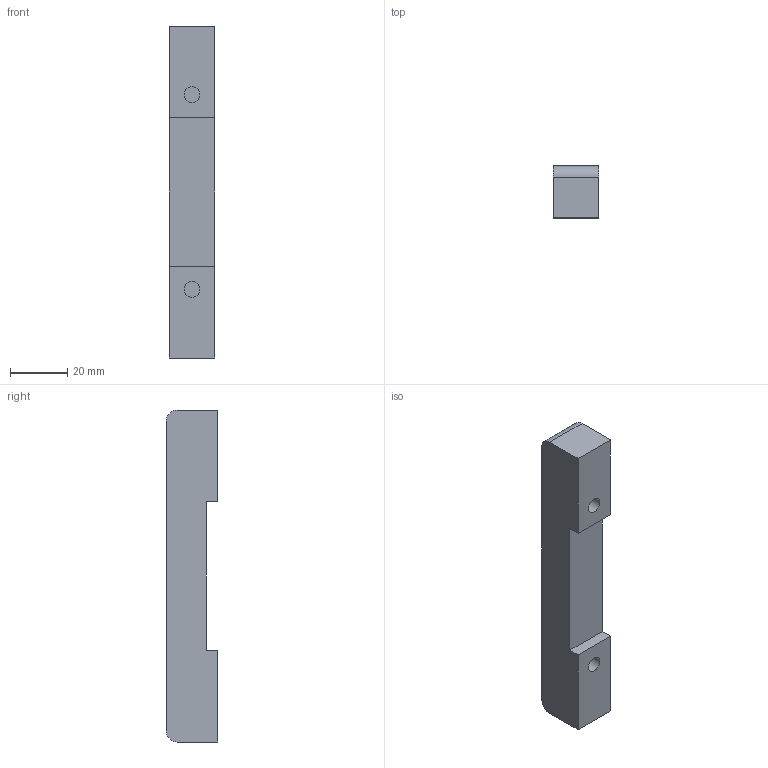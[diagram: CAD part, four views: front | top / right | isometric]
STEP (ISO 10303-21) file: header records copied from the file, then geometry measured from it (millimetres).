
FILE_DESCRIPTION(('Open CASCADE Model'),'2;1');
FILE_NAME('Open CASCADE Shape Model','2026-10-28T13:12:27',('Author'),( 'Open CASCADE'),'Open CASCADE STEP processor 7.9','Open CASCADE 7.9' ,'Unknown');
FILE_SCHEMA(('AUTOMOTIVE_DESIGN { 1 0 10303 214 1 1 1 1 }'));
Length unit declared in the file: millimetre
Products named in the file (1): Open CASCADE STEP translator 7.9 5
Bounding box: 16 x 18 x 116 mm (x, y, z)
Volume: 29195.7 mm3; surface area: 8736 mm2
Topology: 1 solids, 1 shells, 20 faces, 42 edges, 28 vertices
Faces by surface type: plane 14, cylinder 6
Full cylindrical faces by diameter (mm): 5.5 x2, 10.5 x2
Entity records: 1106 total; most frequent: CARTESIAN_POINT 217, DIRECTION 168, LINE 96, VECTOR 96, ORIENTED_EDGE 84, PCURVE 84, DEFINITIONAL_REPRESENTATION 84, EDGE_CURVE 42
